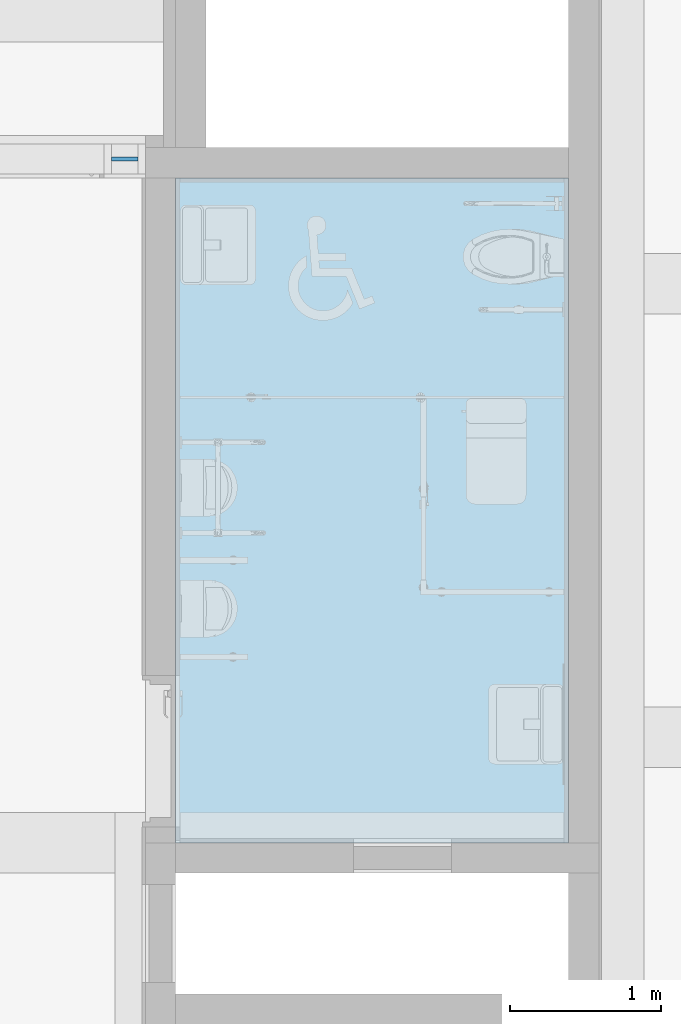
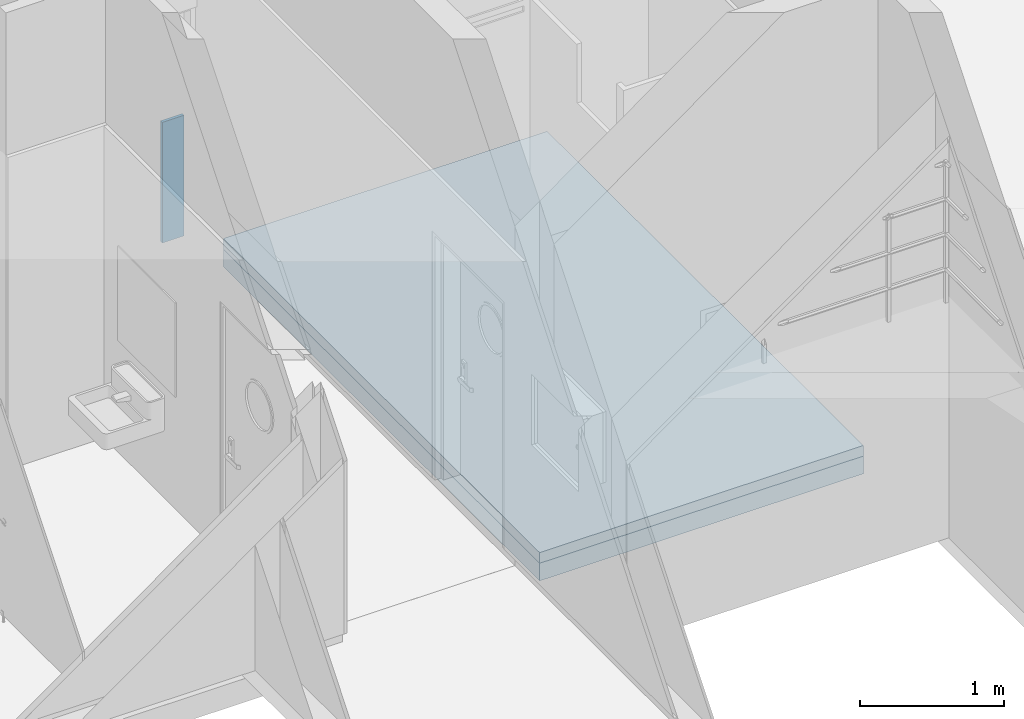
# One storey, part 30 of 81: 2 slabs, 1 plate, 1 element without a shape of its own.
"""IFC2X3 building model written with IfcOpenShell, lengths in millimetres."""

from ifc_helpers import new_model, entity, si_unit, converted_unit, derived_unit, direction, frame, frame_2d, origin, origin_2d_with_axis, place, context, subcontext, project, spatial, rectangle, extrude, source, transform, mapped, material, layer, layer_set, layer_usage, type_object, type_shapes, element, aggregate, save


model = new_model("IFC2X3")

# Units and contexts
model_context = context("Model", 3, precision=0.01, world=origin(), true_north=direction((6.123031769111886e-17, 1.0)))
body_context = subcontext(model_context, "Body", "Model", "MODEL_VIEW")
ifc_project = project(units=[si_unit("LENGTHUNIT", "METRE", prefix="MILLI"), si_unit("AREAUNIT", "SQUARE_METRE"), si_unit("VOLUMEUNIT", "CUBIC_METRE"), converted_unit("PLANEANGLEUNIT", "DEGREE", entity("IfcRatioMeasure", 0.017453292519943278), si_unit("PLANEANGLEUNIT", "RADIAN"), dimensions=[0, 0, 0, 0, 0, 0, 0]), si_unit("MASSUNIT", "GRAM", prefix="KILO"), derived_unit("MASSDENSITYUNIT", [(si_unit("MASSUNIT", "GRAM", prefix="KILO"), 1), (si_unit("LENGTHUNIT", "METRE"), -3)]), derived_unit("MOMENTOFINERTIAUNIT", [(si_unit("LENGTHUNIT", "METRE"), 4)]), si_unit("TIMEUNIT", "SECOND"), si_unit("FREQUENCYUNIT", "HERTZ"), si_unit("THERMODYNAMICTEMPERATUREUNIT", "DEGREE_CELSIUS"), derived_unit("THERMALTRANSMITTANCEUNIT", [(si_unit("MASSUNIT", "GRAM", prefix="KILO"), 1), (si_unit("THERMODYNAMICTEMPERATUREUNIT", "KELVIN"), -1), (si_unit("TIMEUNIT", "SECOND"), -3)]), derived_unit("VOLUMETRICFLOWRATEUNIT", [(si_unit("LENGTHUNIT", "METRE"), 3), (si_unit("TIMEUNIT", "SECOND"), -1)]), derived_unit("MASSFLOWRATEUNIT", [(si_unit("MASSUNIT", "GRAM", prefix="KILO"), 1), (si_unit("TIMEUNIT", "SECOND"), -1)]), derived_unit("ROTATIONALFREQUENCYUNIT", [(si_unit("TIMEUNIT", "SECOND"), -1)]), si_unit("ELECTRICCURRENTUNIT", "AMPERE"), si_unit("ELECTRICVOLTAGEUNIT", "VOLT"), si_unit("POWERUNIT", "WATT"), si_unit("FORCEUNIT", "NEWTON", prefix="KILO"), si_unit("ILLUMINANCEUNIT", "LUX"), si_unit("LUMINOUSFLUXUNIT", "LUMEN"), si_unit("LUMINOUSINTENSITYUNIT", "CANDELA"), derived_unit("USERDEFINED", [(si_unit("MASSUNIT", "GRAM", prefix="KILO"), -1), (si_unit("LENGTHUNIT", "METRE"), -2), (si_unit("TIMEUNIT", "SECOND"), 3), (si_unit("LUMINOUSFLUXUNIT", "LUMEN"), 1)]), derived_unit("SOUNDPOWERUNIT", [(si_unit("MASSUNIT", "GRAM", prefix="KILO"), 1), (si_unit("LENGTHUNIT", "METRE"), 2), (si_unit("TIMEUNIT", "SECOND"), -3)]), derived_unit("SOUNDPRESSUREUNIT", [(si_unit("MASSUNIT", "GRAM", prefix="KILO"), 1), (si_unit("LENGTHUNIT", "METRE"), -1), (si_unit("TIMEUNIT", "SECOND"), -2)]), derived_unit("LINEARVELOCITYUNIT", [(si_unit("LENGTHUNIT", "METRE"), 1), (si_unit("TIMEUNIT", "SECOND"), -1)]), si_unit("PRESSUREUNIT", "PASCAL"), derived_unit("USERDEFINED", [(si_unit("LENGTHUNIT", "METRE"), -2), (si_unit("MASSUNIT", "GRAM", prefix="KILO"), 1), (si_unit("TIMEUNIT", "SECOND"), -2)]), derived_unit("LINEARFORCEUNIT", [(si_unit("MASSUNIT", "GRAM", prefix="KILO"), 1), (si_unit("LENGTHUNIT", "METRE"), 1), (si_unit("TIMEUNIT", "SECOND"), -2), (si_unit("LENGTHUNIT", "METRE"), -1)]), derived_unit("PLANARFORCEUNIT", [(si_unit("MASSUNIT", "GRAM", prefix="KILO"), 1), (si_unit("LENGTHUNIT", "METRE"), 1), (si_unit("TIMEUNIT", "SECOND"), -2), (si_unit("LENGTHUNIT", "METRE"), -2)])], contexts=[model_context])

# Site, building, storey
site_placement = place(None, frame((-14167.972527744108, -657.2125860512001, 0.0)))
site = spatial("IfcSite", under=ifc_project, at=site_placement, Name="Default", CompositionType="ELEMENT")
building_placement = place(site_placement, origin())
building = spatial("IfcBuilding", under=site, at=building_placement, Name="Sample Building", CompositionType="ELEMENT")
storey_placement = place(building_placement, frame((0.0, 0.0, 13400.0)))
storey = spatial("IfcBuildingStorey", under=building, at=storey_placement, Name="지상 4층", CompositionType="ELEMENT", Elevation=13400.00000000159)

# Slab
ifc_material_1 = material(Name="KBIMS-콘크리트")
ifc_layer_1 = layer(ifc_material_1, 150.0)
ifc_layer_set_1 = layer_set([ifc_layer_1], Name="바닥:SL111-철근콘크리트구조 바닥 150mm_S4")
ifc_layer_usage_1 = layer_usage(ifc_layer_set_1, "AXIS3", "POSITIVE", 0.0)
slab_type_1 = type_object("IfcSlabType", Name="바닥:SL111-철근콘크리트구조 바닥 150mm_S4", PredefinedType="FLOOR", material=ifc_layer_set_1)
slab_1_placement = place(storey_placement, frame((33067.972491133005, 22457.21230348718, -200.0)))
element("IfcSlab", 1, at=slab_1_placement, inside=storey, type_object=slab_type_1, material=ifc_layer_usage_1, Name="바닥:SL111-철근콘크리트구조 바닥 150mm_S4:2", ObjectType="바닥:SL111-철근콘크리트구조 바닥 150mm_S4", PredefinedType="FLOOR", context=body_context, shape_type="SweptSolid", body=[
    extrude(rectangle(XDim=4399.999996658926, YDim=2600.0086929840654, at=frame_2d((-2549.9912854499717, -550.0000039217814), x_axis=(0.0, -1.0))), frame((3849.9956319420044, 2750.0, 150.0), z_axis=(0.0, 0.0, -1.0), x_axis=(-1.0, 0.0, 0.0)), (0.0, 0.0, 1.0), 150.00000000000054),
])

# Curtain wall, plate
curtain_wall_type = type_object("IfcCurtainWallType", Name="커튼월:CW112-스테인리스 스틸 커튼월", PredefinedType="NOTDEFINED")
curtain_wall_placement = place(storey_placement, frame((0.0, 0.0, -13400.0)))
curtain_wall = element("IfcCurtainWall", 2, at=curtain_wall_placement, inside=storey, type_object=curtain_wall_type, Name="커튼월:CW112-스테인리스 스틸 커튼월", ObjectType="커튼월:CW112-스테인리스 스틸 커튼월")
ifc_material_2 = material(Name="KBIMS-로이유리(코팅)")
plate_type = type_object("IfcPlateType", Name="CW300-THK24.Low-e coating glass:CW300-THK24.Low-e coating glass", PredefinedType="CURTAIN_PANEL", material=ifc_material_2)
shared_shape = source(origin(), body_context, "Body", "SweptSolid", [
    extrude(rectangle(XDim=175.00000000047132, YDim=24.000000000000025, at=origin_2d_with_axis()), frame((0.0, 0.0, 0.0), z_axis=(0.0, 0.0, 1.0), x_axis=(-1.0, 0.0, 0.0)), (0.0, 0.0, 1.0), 1024.9999999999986),
])
type_shapes(plate_type, [shared_shape])
plate_placement = place(curtain_wall_placement, frame((37830.46379814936, 26982.21229514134, 13480.0)))
plate = element("IfcPlate", 3, at=plate_placement, type_object=plate_type, material=ifc_material_2, Name="CW300-THK24.Low-e coating glass:CW300-THK24.Low-e coating glass", ObjectType="CW300-THK24.Low-e coating glass:CW300-THK24.Low-e coating glass", context=body_context, shape_type="MappedRepresentation", body=[
    mapped(shared_shape, transform((0.0, 0.0, 0.0), scale=1.0)),
])
aggregate(curtain_wall, [plate])

# Slab
ifc_material_3 = material(Name="SL351-자기질타일 바닥 (바탕32mm, 압착8mm)")
ifc_layer_2 = layer(ifc_material_3, 40.0)
ifc_material_4 = material(Name="SL553-보호모르타르 바닥 (콘크리트면) 30mm")
ifc_layer_3 = layer(ifc_material_4, 30.0)
ifc_material_5 = material(Name="SL521-도막방수 바닥 (비노출) 3mm")
ifc_layer_4 = layer(ifc_material_5, 3.0)
ifc_material_6 = material(Name="SL551-시멘트모르타르 미장 바닥 17mm")
ifc_layer_5 = layer(ifc_material_6, 17.0)
ifc_layer_set_2 = layer_set([ifc_layer_2, ifc_layer_3, ifc_layer_4, ifc_layer_5], Name="바닥:A1-14-03A-시멘트모르타르(고름용), 도막방수, 시멘트모르타르(보호용), 자기질타일 (90mm)")
ifc_layer_usage_2 = layer_usage(ifc_layer_set_2, "AXIS3", "POSITIVE", 0.0)
slab_type_2 = type_object("IfcSlabType", Name="바닥:A1-14-03A-시멘트모르타르(고름용), 도막방수, 시멘트모르타르(보호용), 자기질타일 (90mm)", PredefinedType="FLOOR", material=ifc_layer_set_2)
slab_2_placement = place(storey_placement, origin())
element("IfcSlab", 4, at=slab_2_placement, inside=storey, type_object=slab_type_2, material=ifc_layer_usage_2, Name="바닥:A1-14-03A-시멘트모르타르(고름용), 도막방수, 시멘트모르타르(보호용), 자기질타일 (90mm)", ObjectType="바닥:A1-14-03A-시멘트모르타르(고름용), 도막방수, 시멘트모르타르(보호용), 자기질타일 (90mm)", PredefinedType="FLOOR", context=body_context, shape_type="SweptSolid", body=[
    extrude(rectangle(XDim=4399.999996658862, YDim=2600.017385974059, at=frame_2d((-2.0463630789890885e-12, -4.320099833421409e-12), x_axis=(1.0, 0.0))), frame((39467.97249113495, 24657.212309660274, 40.0), z_axis=(0.0, 0.0, -1.0), x_axis=(0.0, 1.0, 0.0)), (0.0, 0.0, 1.0), 89.99999999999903),
])

save(model, "model.ifc")
